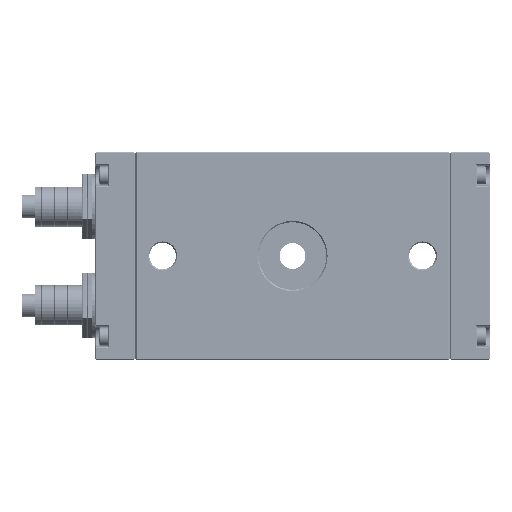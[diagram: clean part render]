
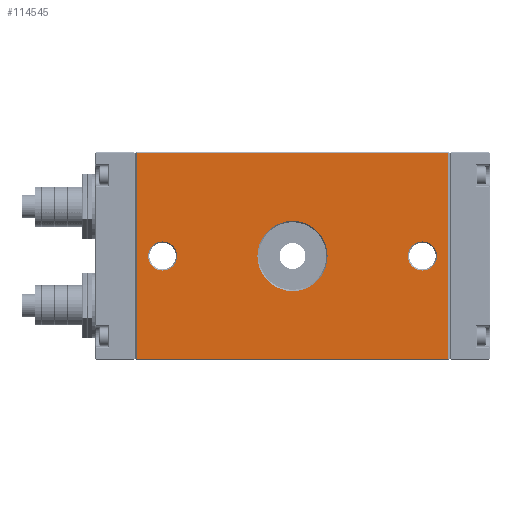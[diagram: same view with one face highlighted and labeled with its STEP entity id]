
A CAD part, front view. The second image highlights one B-rep face of the part: STEP entity #114545.
In plain terms, the highlighted planar face has unit normal (0, -1, 0) as drawn and (0, 0, -1) by its records, which use the part's own axes.
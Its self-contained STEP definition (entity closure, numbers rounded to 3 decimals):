
#111570 = EDGE_CURVE ( 'NONE', #111572, #111574, #199325, .T. ) ;
#111572 = VERTEX_POINT ( 'NONE', #199314 ) ;
#111574 = VERTEX_POINT ( 'NONE', #199313 ) ;
#111595 = VERTEX_POINT ( 'NONE', #199347 ) ;
#111609 = VERTEX_POINT ( 'NONE', #199338 ) ;
#111612 = VERTEX_POINT ( 'NONE', #199398 ) ;
#111624 = EDGE_CURVE ( 'NONE', #111609, #111612, #199392, .T. ) ;
#111692 = VERTEX_POINT ( 'NONE', #199430 ) ;
#111695 = EDGE_CURVE ( 'NONE', #111595, #111692, #199501, .T. ) ;
#114385 = EDGE_LOOP ( 'NONE', ( #114511, #114544 ) ) ;
#114386 = EDGE_CURVE ( 'NONE', #111612, #111609, #203784, .T. ) ;
#114435 = VERTEX_POINT ( 'NONE', #203839 ) ;
#114500 = ORIENTED_EDGE ( 'NONE', *, *, #114529, .T. ) ;
#114501 = EDGE_CURVE ( 'NONE', #114539, #114528, #203917, .T. ) ;
#114503 = ORIENTED_EDGE ( 'NONE', *, *, #114501, .T. ) ;
#114506 = EDGE_CURVE ( 'NONE', #114528, #114520, #203926, .T. ) ;
#114508 = ORIENTED_EDGE ( 'NONE', *, *, #114506, .T. ) ;
#114511 = ORIENTED_EDGE ( 'NONE', *, *, #111695, .T. ) ;
#114512 = EDGE_CURVE ( 'NONE', #111574, #111572, #203907, .T. ) ;
#114513 = EDGE_LOOP ( 'NONE', ( #114518, #114516 ) ) ;
#114515 = ORIENTED_EDGE ( 'NONE', *, *, #111570, .T. ) ;
#114516 = ORIENTED_EDGE ( 'NONE', *, *, #114386, .T. ) ;
#114518 = ORIENTED_EDGE ( 'NONE', *, *, #111624, .T. ) ;
#114520 = VERTEX_POINT ( 'NONE', #203903 ) ;
#114523 = EDGE_CURVE ( 'NONE', #114520, #114435, #203905, .T. ) ;
#114526 = EDGE_LOOP ( 'NONE', ( #114527, #114500, #114503, #114508 ) ) ;
#114527 = ORIENTED_EDGE ( 'NONE', *, *, #114523, .T. ) ;
#114528 = VERTEX_POINT ( 'NONE', #203925 ) ;
#114529 = EDGE_CURVE ( 'NONE', #114435, #114539, #203908, .T. ) ;
#114533 = ORIENTED_EDGE ( 'NONE', *, *, #114512, .T. ) ;
#114539 = VERTEX_POINT ( 'NONE', #203950 ) ;
#114541 = EDGE_CURVE ( 'NONE', #111692, #111595, #203945, .T. ) ;
#114542 = EDGE_LOOP ( 'NONE', ( #114515, #114533 ) ) ;
#114544 = ORIENTED_EDGE ( 'NONE', *, *, #114541, .T. ) ;
#114545 = ADVANCED_FACE ( 'NONE', ( #203936, #203939, #203938, #203937 ), #203951, .T. ) ;
#199309 = DIRECTION ( 'NONE',  ( -1., 0., 0. ) ) ;
#199310 = DIRECTION ( 'NONE',  ( 0., 0., 1. ) ) ;
#199311 = CARTESIAN_POINT ( 'NONE',  ( 110.5, 40., 0. ) ) ;
#199313 = CARTESIAN_POINT ( 'NONE',  ( 116.1, 40., 0. ) ) ;
#199314 = CARTESIAN_POINT ( 'NONE',  ( 104.9, 40., 0. ) ) ;
#199315 = AXIS2_PLACEMENT_3D ( 'NONE', #199311, #199310, #199309 ) ;
#199325 = CIRCLE ( 'NONE', #199315, 5.6 ) ;
#199338 = CARTESIAN_POINT ( 'NONE',  ( 47., 40., 0. ) ) ;
#199347 = CARTESIAN_POINT ( 'NONE',  ( 4.9, 40., 0. ) ) ;
#199368 = DIRECTION ( 'NONE',  ( -1., 0., 0. ) ) ;
#199369 = DIRECTION ( 'NONE',  ( 0., 0., 1. ) ) ;
#199370 = CARTESIAN_POINT ( 'NONE',  ( 60.5, 40., 0. ) ) ;
#199386 = AXIS2_PLACEMENT_3D ( 'NONE', #199370, #199369, #199368 ) ;
#199392 = CIRCLE ( 'NONE', #199386, 13.5 ) ;
#199398 = CARTESIAN_POINT ( 'NONE',  ( 74., 40., 0. ) ) ;
#199430 = CARTESIAN_POINT ( 'NONE',  ( 16.1, 40., 0. ) ) ;
#199496 = DIRECTION ( 'NONE',  ( -1., 0., 0. ) ) ;
#199497 = DIRECTION ( 'NONE',  ( 0., 0., 1. ) ) ;
#199499 = CARTESIAN_POINT ( 'NONE',  ( 10.5, 40., 0. ) ) ;
#199500 = AXIS2_PLACEMENT_3D ( 'NONE', #199499, #199497, #199496 ) ;
#199501 = CIRCLE ( 'NONE', #199500, 5.6 ) ;
#203761 = DIRECTION ( 'NONE',  ( -1., 0., 0. ) ) ;
#203762 = DIRECTION ( 'NONE',  ( 0., 0., 1. ) ) ;
#203763 = CARTESIAN_POINT ( 'NONE',  ( 60.5, 40., 0. ) ) ;
#203764 = AXIS2_PLACEMENT_3D ( 'NONE', #203763, #203762, #203761 ) ;
#203784 = CIRCLE ( 'NONE', #203764, 13.5 ) ;
#203839 = CARTESIAN_POINT ( 'NONE',  ( 0.5, 0.5, 0. ) ) ;
#203899 = DIRECTION ( 'NONE',  ( -1., 0., 0. ) ) ;
#203900 = DIRECTION ( 'NONE',  ( 0., 0., 1. ) ) ;
#203901 = CARTESIAN_POINT ( 'NONE',  ( 110.5, 40., 0. ) ) ;
#203902 = AXIS2_PLACEMENT_3D ( 'NONE', #203901, #203900, #203899 ) ;
#203903 = CARTESIAN_POINT ( 'NONE',  ( 120.5, 0.5, 0. ) ) ;
#203905 = LINE ( 'NONE', #203965, #203927 ) ;
#203907 = CIRCLE ( 'NONE', #203902, 5.6 ) ;
#203908 = LINE ( 'NONE', #203959, #203958 ) ;
#203910 = DIRECTION ( 'NONE',  ( 0., -1., 0. ) ) ;
#203911 = VECTOR ( 'NONE', #203910, 1000. ) ;
#203912 = CARTESIAN_POINT ( 'NONE',  ( 120.5, 0., 0. ) ) ;
#203914 = DIRECTION ( 'NONE',  ( 1., 0., 0. ) ) ;
#203915 = VECTOR ( 'NONE', #203914, 1000. ) ;
#203916 = CARTESIAN_POINT ( 'NONE',  ( 121., 79.5, 0. ) ) ;
#203917 = LINE ( 'NONE', #203916, #203915 ) ;
#203925 = CARTESIAN_POINT ( 'NONE',  ( 120.5, 79.5, 0. ) ) ;
#203926 = LINE ( 'NONE', #203912, #203911 ) ;
#203927 = VECTOR ( 'NONE', #203964, 1000. ) ;
#203928 = AXIS2_PLACEMENT_3D ( 'NONE', #203940, #203944, #203988 ) ;
#203931 = DIRECTION ( 'NONE',  ( -1., 0., 0. ) ) ;
#203932 = DIRECTION ( 'NONE',  ( 0., 0., 1. ) ) ;
#203933 = CARTESIAN_POINT ( 'NONE',  ( 10.5, 40., 0. ) ) ;
#203936 = FACE_BOUND ( 'NONE', #114385, .T. ) ;
#203937 = FACE_OUTER_BOUND ( 'NONE', #114526, .T. ) ;
#203938 = FACE_BOUND ( 'NONE', #114513, .T. ) ;
#203939 = FACE_BOUND ( 'NONE', #114542, .T. ) ;
#203940 = CARTESIAN_POINT ( 'NONE',  ( 0., 80., 0. ) ) ;
#203944 = DIRECTION ( 'NONE',  ( 0., 0., -1. ) ) ;
#203945 = CIRCLE ( 'NONE', #203954, 5.6 ) ;
#203950 = CARTESIAN_POINT ( 'NONE',  ( 0.5, 79.5, 0. ) ) ;
#203951 = PLANE ( 'NONE',  #203928 ) ;
#203954 = AXIS2_PLACEMENT_3D ( 'NONE', #203933, #203932, #203931 ) ;
#203957 = DIRECTION ( 'NONE',  ( 0., 1., 0. ) ) ;
#203958 = VECTOR ( 'NONE', #203957, 1000. ) ;
#203959 = CARTESIAN_POINT ( 'NONE',  ( 0.5, 80., 0. ) ) ;
#203964 = DIRECTION ( 'NONE',  ( -1., 0., 0. ) ) ;
#203965 = CARTESIAN_POINT ( 'NONE',  ( 0., 0.5, 0. ) ) ;
#203988 = DIRECTION ( 'NONE',  ( -1., 0., 0. ) ) ;
